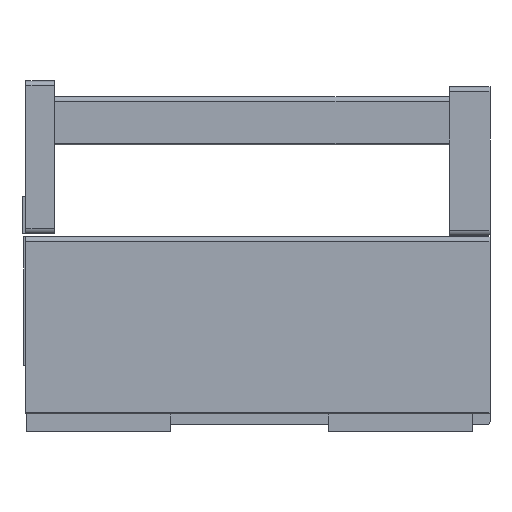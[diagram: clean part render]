
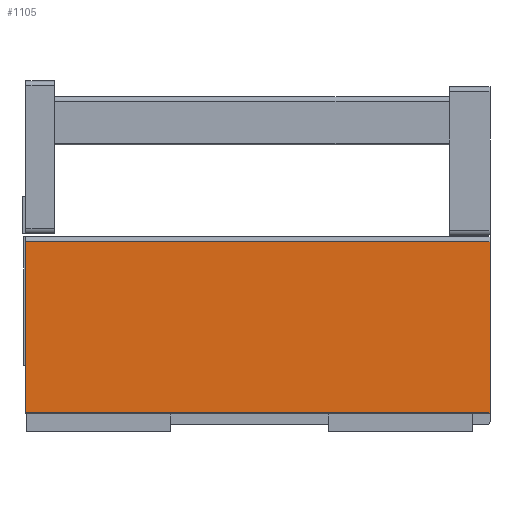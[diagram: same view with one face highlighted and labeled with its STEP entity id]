
A CAD part, left-side view. The second image highlights one B-rep face of the part: STEP entity #1105.
In plain terms, the highlighted planar face has unit normal (-1, 0, 0).
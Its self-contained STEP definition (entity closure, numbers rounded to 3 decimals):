
#1 = CARTESIAN_POINT ( 'NONE',  ( -4.1, 290., 64.411 ) ) ;
#4 = DIRECTION ( 'NONE',  ( 0., 0., -1. ) ) ;
#140 = EDGE_CURVE ( 'NONE', #4809, #4762, #1425, .T. ) ;
#412 = EDGE_CURVE ( 'NONE', #4792, #4809, #5120, .T. ) ;
#491 = AXIS2_PLACEMENT_3D ( 'NONE', #3229, #3232, #3233 ) ;
#550 = EDGE_CURVE ( 'NONE', #4792, #4806, #1021, .T. ) ;
#790 = EDGE_CURVE ( 'NONE', #4806, #4762, #881, .T. ) ;
#825 = FACE_OUTER_BOUND ( 'NONE', #1580, .T. ) ;
#880 = VECTOR ( 'NONE', #3100, 1000. ) ;
#881 = LINE ( 'NONE', #3099, #880 ) ;
#1019 = VECTOR ( 'NONE', #2744, 1000. ) ;
#1021 = LINE ( 'NONE', #2730, #1019 ) ;
#1105 = ADVANCED_FACE ( 'NONE', ( #825 ), #3230, .F. ) ;
#1339 = ORIENTED_EDGE ( 'NONE', *, *, #140, .T. ) ;
#1359 = ORIENTED_EDGE ( 'NONE', *, *, #550, .F. ) ;
#1383 = ORIENTED_EDGE ( 'NONE', *, *, #790, .F. ) ;
#1414 = ORIENTED_EDGE ( 'NONE', *, *, #412, .T. ) ;
#1422 = VECTOR ( 'NONE', #4751, 1000. ) ;
#1425 = LINE ( 'NONE', #4754, #1422 ) ;
#1580 = EDGE_LOOP ( 'NONE', ( #1383, #1359, #1414, #1339 ) ) ;
#2730 = CARTESIAN_POINT ( 'NONE',  ( -4.1, 290., 78.498 ) ) ;
#2744 = DIRECTION ( 'NONE',  ( 0., -1., 0. ) ) ;
#3099 = CARTESIAN_POINT ( 'NONE',  ( -4.1, 0., -28.503 ) ) ;
#3100 = DIRECTION ( 'NONE',  ( 0., 0., -1. ) ) ;
#3229 = CARTESIAN_POINT ( 'NONE',  ( -4.1, 290., -28.503 ) ) ;
#3230 = PLANE ( 'NONE',  #491 ) ;
#3232 = DIRECTION ( 'NONE',  ( 1., 0., 0. ) ) ;
#3233 = DIRECTION ( 'NONE',  ( 0., 0., -1. ) ) ;
#4034 = CARTESIAN_POINT ( 'NONE',  ( -4.1, 0., -28.503 ) ) ;
#4064 = CARTESIAN_POINT ( 'NONE',  ( -4.1, 290., 78.498 ) ) ;
#4078 = CARTESIAN_POINT ( 'NONE',  ( -4.1, 0., 78.498 ) ) ;
#4081 = CARTESIAN_POINT ( 'NONE',  ( -4.1, 290., -28.503 ) ) ;
#4751 = DIRECTION ( 'NONE',  ( 0., -1., 0. ) ) ;
#4754 = CARTESIAN_POINT ( 'NONE',  ( -4.1, 290., -28.503 ) ) ;
#4762 = VERTEX_POINT ( 'NONE', #4034 ) ;
#4792 = VERTEX_POINT ( 'NONE', #4064 ) ;
#4806 = VERTEX_POINT ( 'NONE', #4078 ) ;
#4809 = VERTEX_POINT ( 'NONE', #4081 ) ;
#5082 = VECTOR ( 'NONE', #4, 1000. ) ;
#5120 = LINE ( 'NONE', #1, #5082 ) ;
